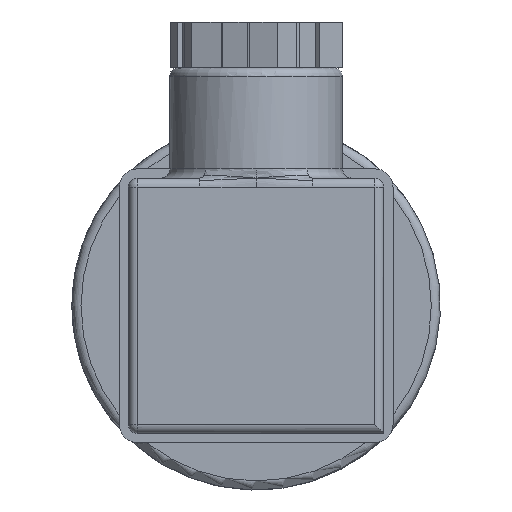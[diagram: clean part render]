
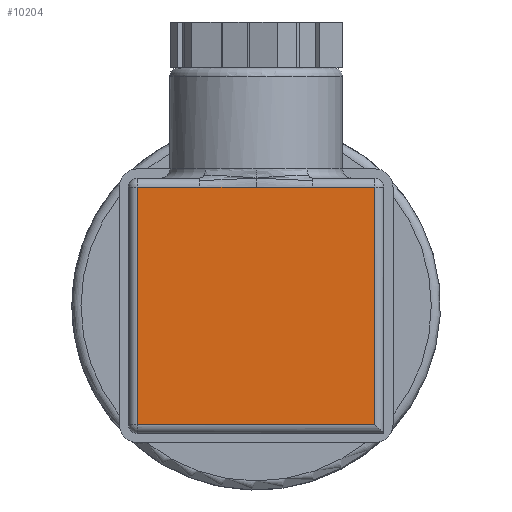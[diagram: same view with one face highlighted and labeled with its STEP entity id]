
A CAD part, front view. The second image highlights one B-rep face of the part: STEP entity #10204.
In plain terms, the highlighted planar face has unit normal (0, -1, 0).
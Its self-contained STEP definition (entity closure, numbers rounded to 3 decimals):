
#226=CARTESIAN_POINT('',(0.,-109.019,13.));
#227=VERTEX_POINT('',#226);
#238=CARTESIAN_POINT('',(6.164,-109.019,13.));
#239=VERTEX_POINT('',#238);
#240=CARTESIAN_POINT('',(0.,-109.019,13.));
#241=DIRECTION('',(1.0,0.,0.));
#242=VECTOR('',#241,6.164);
#243=LINE('',#240,#242);
#244=EDGE_CURVE('',#227,#239,#243,.T.);
#325=CARTESIAN_POINT('',(-6.164,-109.019,13.));
#326=VERTEX_POINT('',#325);
#334=CARTESIAN_POINT('',(-6.164,-109.019,13.));
#335=DIRECTION('',(1.0,0.,0.));
#336=VECTOR('',#335,6.164);
#337=LINE('',#334,#336);
#338=EDGE_CURVE('',#326,#227,#337,.T.);
#9858=CARTESIAN_POINT('',(-13.,-109.019,13.));
#9859=VERTEX_POINT('',#9858);
#9915=CARTESIAN_POINT('',(-13.,-109.019,-13.));
#9916=VERTEX_POINT('',#9915);
#10026=CARTESIAN_POINT('',(13.,-109.019,13.));
#10027=VERTEX_POINT('',#10026);
#10060=CARTESIAN_POINT('',(6.164,-109.019,13.));
#10061=DIRECTION('',(1.0,0.,0.));
#10062=VECTOR('',#10061,6.836);
#10063=LINE('',#10060,#10062);
#10064=EDGE_CURVE('',#239,#10027,#10063,.T.);
#10076=CARTESIAN_POINT('',(13.,-109.019,-13.));
#10077=VERTEX_POINT('',#10076);
#10078=CARTESIAN_POINT('',(13.,-109.019,13.));
#10079=DIRECTION('',(0.,0.0,-1.0));
#10080=VECTOR('',#10079,26.0);
#10081=LINE('',#10078,#10080);
#10082=EDGE_CURVE('',#10027,#10077,#10081,.T.);
#10099=CARTESIAN_POINT('',(13.,-109.019,-13.));
#10100=DIRECTION('',(-1.0,0.,0.));
#10101=VECTOR('',#10100,26.);
#10102=LINE('',#10099,#10101);
#10103=EDGE_CURVE('',#10077,#9916,#10102,.T.);
#10145=CARTESIAN_POINT('',(-13.,-109.019,13.));
#10146=DIRECTION('',(1.0,0.,0.));
#10147=VECTOR('',#10146,6.836);
#10148=LINE('',#10145,#10147);
#10149=EDGE_CURVE('',#9859,#326,#10148,.T.);
#10167=CARTESIAN_POINT('',(-13.,-109.019,-13.));
#10168=DIRECTION('',(0.,0.0,1.0));
#10169=VECTOR('',#10168,26.0);
#10170=LINE('',#10167,#10169);
#10171=EDGE_CURVE('',#9916,#9859,#10170,.T.);
#10190=CARTESIAN_POINT('',(0.,-109.019,0.));
#10191=DIRECTION('',(0.,-1.0,0.));
#10192=DIRECTION('',(-1.0,0.,0.));
#10193=AXIS2_PLACEMENT_3D('',#10190,#10191,#10192);
#10194=PLANE('',#10193);
#10195=ORIENTED_EDGE('',*,*,#338,.F.);
#10196=ORIENTED_EDGE('',*,*,#10149,.F.);
#10197=ORIENTED_EDGE('',*,*,#10171,.F.);
#10198=ORIENTED_EDGE('',*,*,#10103,.F.);
#10199=ORIENTED_EDGE('',*,*,#10082,.F.);
#10200=ORIENTED_EDGE('',*,*,#10064,.F.);
#10201=ORIENTED_EDGE('',*,*,#244,.F.);
#10202=EDGE_LOOP('',(#10195,#10196,#10197,#10198,#10199,#10200,#10201));
#10203=FACE_OUTER_BOUND('',#10202,.T.);
#10204=ADVANCED_FACE('',(#10203),#10194,.T.);
